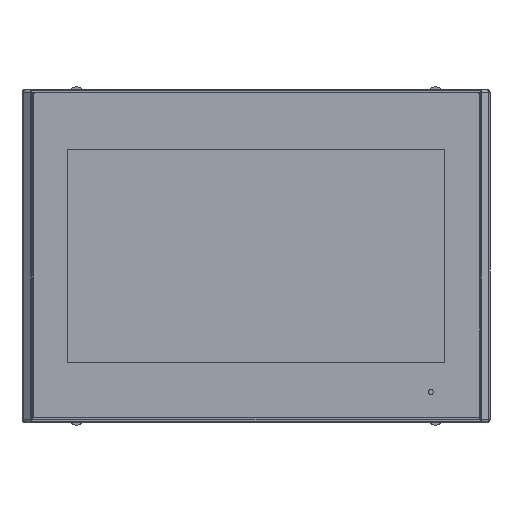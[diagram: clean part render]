
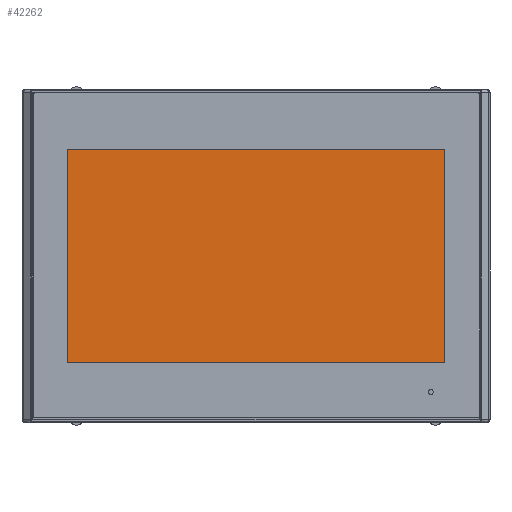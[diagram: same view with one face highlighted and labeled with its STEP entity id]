
A CAD part, top view. The second image highlights one B-rep face of the part: STEP entity #42262.
In plain terms, the highlighted planar face has unit normal (0, 0, 1).
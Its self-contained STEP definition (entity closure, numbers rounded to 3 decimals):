
#2668=DIRECTION('',(-1.,0.,0.));
#2669=VECTOR('',#2668,224.7);
#2670=CARTESIAN_POINT('',(112.35,63.55,7.05));
#2671=LINE('',#2670,#2669);
#2672=DIRECTION('',(0.,1.,0.));
#2673=VECTOR('',#2672,127.1);
#2674=CARTESIAN_POINT('',(112.35,-63.55,7.05));
#2675=LINE('',#2674,#2673);
#2676=DIRECTION('',(1.,0.,0.));
#2677=VECTOR('',#2676,224.7);
#2678=CARTESIAN_POINT('',(-112.35,-63.55,7.05));
#2679=LINE('',#2678,#2677);
#2680=DIRECTION('',(0.,-1.,0.));
#2681=VECTOR('',#2680,127.1);
#2682=CARTESIAN_POINT('',(-112.35,63.55,7.05));
#2683=LINE('',#2682,#2681);
#39706=CARTESIAN_POINT('',(112.35,63.55,7.05));
#39707=CARTESIAN_POINT('',(-112.35,63.55,7.05));
#39708=VERTEX_POINT('',#39706);
#39709=VERTEX_POINT('',#39707);
#39710=CARTESIAN_POINT('',(-112.35,-63.55,7.05));
#39711=VERTEX_POINT('',#39710);
#39712=CARTESIAN_POINT('',(112.35,-63.55,7.05));
#39713=VERTEX_POINT('',#39712);
#42251=CARTESIAN_POINT('',(0.,0.,7.05));
#42252=DIRECTION('',(0.,0.,1.));
#42253=DIRECTION('',(1.,0.,0.));
#42254=AXIS2_PLACEMENT_3D('',#42251,#42252,#42253);
#42255=PLANE('',#42254);
#42256=ORIENTED_EDGE('',*,*,#42203,.F.);
#42257=ORIENTED_EDGE('',*,*,#42218,.F.);
#42258=ORIENTED_EDGE('',*,*,#42232,.F.);
#42259=ORIENTED_EDGE('',*,*,#42245,.F.);
#42260=EDGE_LOOP('',(#42256,#42257,#42258,#42259));
#42261=FACE_OUTER_BOUND('',#42260,.F.);
#42262=ADVANCED_FACE('',(#42261),#42255,.T.);
#42203=EDGE_CURVE('',#39708,#39709,#2671,.T.);
#42218=EDGE_CURVE('',#39713,#39708,#2675,.T.);
#42232=EDGE_CURVE('',#39711,#39713,#2679,.T.);
#42245=EDGE_CURVE('',#39709,#39711,#2683,.T.);
